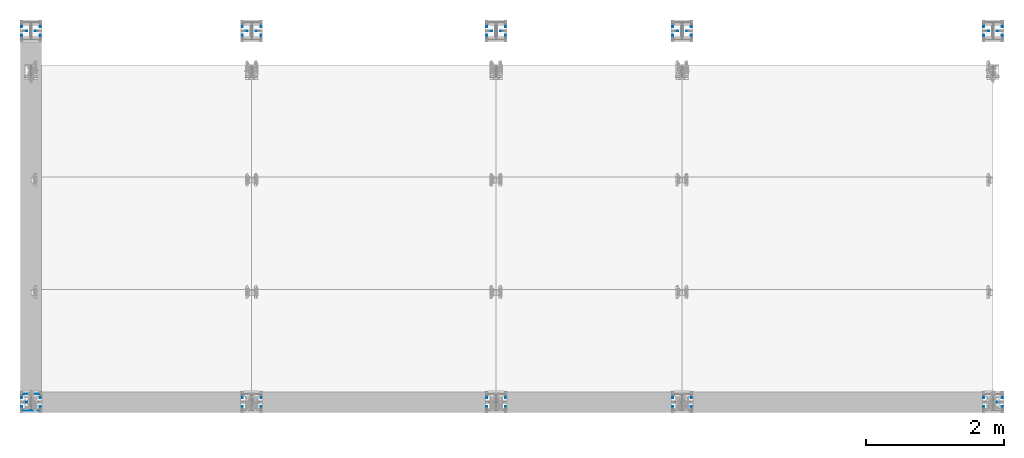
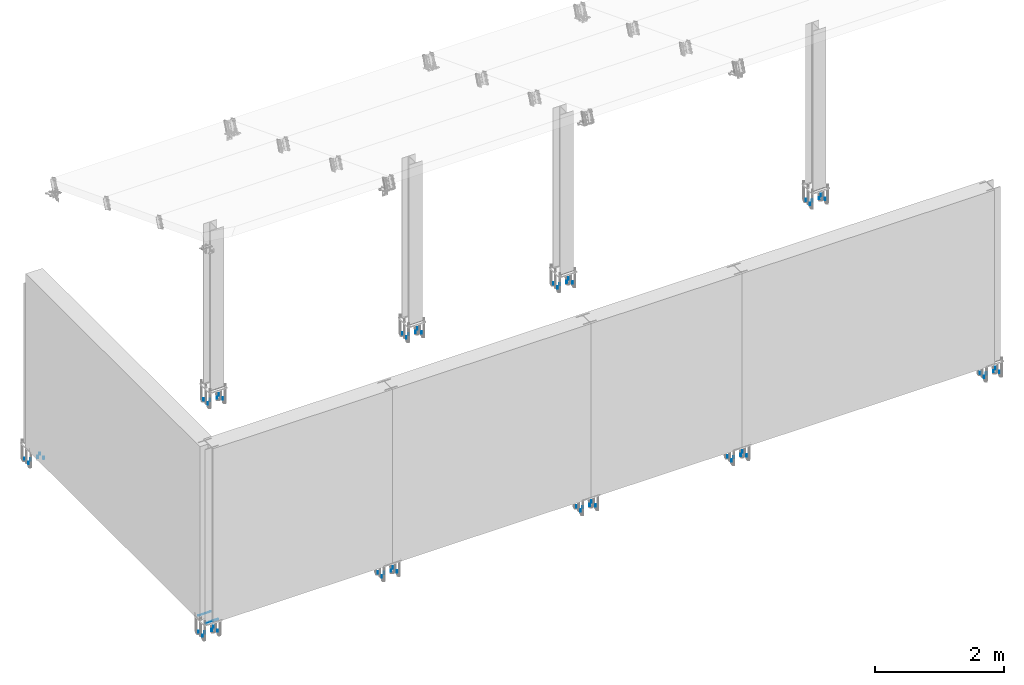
# One storey, part 9 of 72: 2 fasteners, 1 reinforcing bar.
"""IFC4 building model written with IfcOpenShell, lengths in metres."""

from ifc_helpers import new_model, entity, si_unit, frame, origin_with_axes, place, context, project, spatial, polyline, outline, extrude, source, transform, mapped, type_object, element, save


model = new_model("IFC4")

# Units and contexts
model_context = context("Model", 3, precision=1e-05, world=origin_with_axes())
ifc_project = project(units=[si_unit("LENGTHUNIT", "METRE"), si_unit("AREAUNIT", "SQUARE_METRE"), si_unit("VOLUMEUNIT", "CUBIC_METRE"), si_unit("MASSUNIT", "GRAM", prefix="KILO"), si_unit("TIMEUNIT", "SECOND"), si_unit("PLANEANGLEUNIT", "RADIAN"), si_unit("SOLIDANGLEUNIT", "STERADIAN"), si_unit("THERMODYNAMICTEMPERATUREUNIT", "DEGREE_CELSIUS")], contexts=[model_context])

# Site, building, storey
placement_1 = place(None, origin_with_axes())
site = spatial("IfcSite", under=ifc_project, at=placement_1, Name="Italia", CompositionType="ELEMENT")
building = spatial("IfcBuilding", under=site, at=placement_1, Name="Uffici", CompositionType="ELEMENT")
storey = spatial("IfcBuildingStorey", under=building, at=placement_1, Name="Storey 0", CompositionType="ELEMENT", Elevation=0.0)

# Fasteners
fastener_type_1 = type_object("IfcFastenerType", Name="Collegamenti 0001_0101 0002_0102 0003_0103 0004_0104 0005_0105 0011_0111 0012_0112 0013_0113 0014_0114 0015_0115", PredefinedType="WELD")
placement_2 = place(placement_1, origin_with_axes())
fastener_1_placement = place(placement_2, origin_with_axes())
element("IfcFastener", 1, at=fastener_1_placement, inside=storey, type_object=fastener_type_1, Name="Collegamenti 0001_0101 0002_0102 0003_0103 0004_0104 0005_0105 0011_0111 0012_0112 0013_0113 0014_0114 0015_0115", context=model_context, shape_type="SweptSolid", body=[
    extrude(outline(polyline([(0.0, 0.0), (0.00986816, 0.0101734), (0.00986816, 0.0), (0.0, 0.0)])), frame((0.11005, 0.124818, 0.01995), z_axis=(-1.0, 6.7701784e-08, 0.0), x_axis=(-6.7701784e-08, -1.0, 0.0)), (0.0, 0.0, 1.0), 0.2201),
])
fastener_type_2 = type_object("IfcFastenerType", Name="Collegamenti 0001_0101 0002_0102 0003_0103 0004_0104 0005_0105 0011_0111 0012_0112 0013_0113 0014_0114 0015_0115", PredefinedType="WELD")
fastener_2_placement = place(placement_2, origin_with_axes())
element("IfcFastener", 2, at=fastener_2_placement, inside=storey, type_object=fastener_type_2, Name="Collegamenti 0001_0101 0002_0102 0003_0103 0004_0104 0005_0105 0011_0111 0012_0112 0013_0113 0014_0114 0015_0115", context=model_context, shape_type="SweptSolid", body=[
    extrude(outline(polyline([(0.0, 0.0), (0.00986816, 0.0101734), (0.00986816, 0.0), (0.0, 0.0)])), frame((-0.11005, -0.124818, 0.01995), z_axis=(1.0, -6.7701784e-08, 0.0), x_axis=(6.7701784e-08, 1.0, 0.0)), (0.0, 0.0, 1.0), 0.2201),
])

# Reinforcing bar
shared_shape = source(origin_with_axes(), model_context, "Body", "AdvancedSweptSolid", [
    entity("IfcSweptDiskSolid", entity("IfcIndexedPolyCurve", entity("IfcCartesianPointList3D", [[-0.135, -0.063, -0.258], [-0.135, -0.063, -0.222]]), [entity("IfcLineIndex", [1, 2])], False), 0.006),
])
reinforcing_bar_placement = place(placement_2, origin_with_axes())
element("IfcReinforcingBar", 3, at=reinforcing_bar_placement, inside=storey, BarLength=0.036, CrossSectionArea=0.0001131, NominalDiameter=0.012, context=model_context, shape_type="MappedRepresentation", body=[
    mapped(shared_shape, transform((7.025, 5.39, 0.0), x_axis=(1.0, 0.0, 0.0), y_axis=(0.0, 1.0, 0.0), z_axis=(0.0, 0.0, 1.0), scale=1.0)),
    mapped(shared_shape, transform((6.755, 5.39, 0.0), x_axis=(1.0, 0.0, 0.0), y_axis=(0.0, 1.0, 0.0), z_axis=(0.0, 0.0, 1.0), scale=1.0)),
    mapped(shared_shape, transform((3.475, 5.516, 0.0), x_axis=(1.0, 0.0, 0.0), y_axis=(0.0, 1.0, 0.0), z_axis=(0.0, 0.0, 1.0), scale=1.0)),
    mapped(shared_shape, transform((3.403, 5.453, 0.0), x_axis=(1.0, 0.0, 0.0), y_axis=(0.0, 1.0, 0.0), z_axis=(0.0, 0.0, 1.0), scale=1.0)),
    mapped(shared_shape, transform((3.277, 5.453, 0.0), x_axis=(1.0, 0.0, 0.0), y_axis=(0.0, 1.0, 0.0), z_axis=(0.0, 0.0, 1.0), scale=1.0)),
    mapped(shared_shape, transform((6.827, 5.453, 0.0), x_axis=(1.0, 0.0, 0.0), y_axis=(0.0, 1.0, 0.0), z_axis=(0.0, 0.0, 1.0), scale=1.0)),
    mapped(shared_shape, transform((0.27, 5.516, 0.0), x_axis=(1.0, 0.0, 0.0), y_axis=(0.0, 1.0, 0.0), z_axis=(0.0, 0.0, 1.0), scale=1.0)),
    mapped(shared_shape, transform((0.0, 5.516, 0.0), x_axis=(1.0, 0.0, 0.0), y_axis=(0.0, 1.0, 0.0), z_axis=(0.0, 0.0, 1.0), scale=1.0)),
    mapped(shared_shape, transform((3.205, 5.516, 0.0), x_axis=(1.0, 0.0, 0.0), y_axis=(0.0, 1.0, 0.0), z_axis=(0.0, 0.0, 1.0), scale=1.0)),
    mapped(shared_shape, transform((0.27, 5.39, 0.0), x_axis=(1.0, 0.0, 0.0), y_axis=(0.0, 1.0, 0.0), z_axis=(0.0, 0.0, 1.0), scale=1.0)),
    mapped(shared_shape, transform((3.475, 5.39, 0.0), x_axis=(1.0, 0.0, 0.0), y_axis=(0.0, 1.0, 0.0), z_axis=(0.0, 0.0, 1.0), scale=1.0)),
    mapped(shared_shape, transform((3.205, 5.39, 0.0), x_axis=(1.0, 0.0, 0.0), y_axis=(0.0, 1.0, 0.0), z_axis=(0.0, 0.0, 1.0), scale=1.0)),
    mapped(shared_shape, transform((14.168, 5.453, 0.0), x_axis=(1.0, 0.0, 0.0), y_axis=(0.0, 1.0, 0.0), z_axis=(0.0, 0.0, 1.0), scale=1.0)),
    mapped(shared_shape, transform((0.198, 5.453, 0.0), x_axis=(1.0, 0.0, 0.0), y_axis=(0.0, 1.0, 0.0), z_axis=(0.0, 0.0, 1.0), scale=1.0)),
    mapped(shared_shape, transform((0.072, 5.453, 0.0), x_axis=(1.0, 0.0, 0.0), y_axis=(0.0, 1.0, 0.0), z_axis=(0.0, 0.0, 1.0), scale=1.0)),
    mapped(shared_shape, transform((0.0, 5.39, 0.0), x_axis=(1.0, 0.0, 0.0), y_axis=(0.0, 1.0, 0.0), z_axis=(0.0, 0.0, 1.0), scale=1.0)),
    mapped(shared_shape, transform((14.24, 5.516, 0.0), x_axis=(1.0, 0.0, 0.0), y_axis=(0.0, 1.0, 0.0), z_axis=(0.0, 0.0, 1.0), scale=1.0)),
    mapped(shared_shape, transform((13.97, 5.516, 0.0), x_axis=(1.0, 0.0, 0.0), y_axis=(0.0, 1.0, 0.0), z_axis=(0.0, 0.0, 1.0), scale=1.0)),
    mapped(shared_shape, transform((14.042, 5.453, 0.0), x_axis=(1.0, 0.0, 0.0), y_axis=(0.0, 1.0, 0.0), z_axis=(0.0, 0.0, 1.0), scale=1.0)),
    mapped(shared_shape, transform((14.24, 5.39, 0.0), x_axis=(1.0, 0.0, 0.0), y_axis=(0.0, 1.0, 0.0), z_axis=(0.0, 0.0, 1.0), scale=1.0)),
    mapped(shared_shape, transform((13.97, 5.39, 0.0), x_axis=(1.0, 0.0, 0.0), y_axis=(0.0, 1.0, 0.0), z_axis=(0.0, 0.0, 1.0), scale=1.0)),
    mapped(shared_shape, transform((9.455, 5.516, 0.0), x_axis=(1.0, 0.0, 0.0), y_axis=(0.0, 1.0, 0.0), z_axis=(0.0, 0.0, 1.0), scale=1.0)),
    mapped(shared_shape, transform((9.653, 5.453, 0.0), x_axis=(1.0, 0.0, 0.0), y_axis=(0.0, 1.0, 0.0), z_axis=(0.0, 0.0, 1.0), scale=1.0)),
    mapped(shared_shape, transform((9.527, 5.453, 0.0), x_axis=(1.0, 0.0, 0.0), y_axis=(0.0, 1.0, 0.0), z_axis=(0.0, 0.0, 1.0), scale=1.0)),
    mapped(shared_shape, transform((9.455, 5.39, 0.0), x_axis=(1.0, 0.0, 0.0), y_axis=(0.0, 1.0, 0.0), z_axis=(0.0, 0.0, 1.0), scale=1.0)),
    mapped(shared_shape, transform((7.025, 5.516, 0.0), x_axis=(1.0, 0.0, 0.0), y_axis=(0.0, 1.0, 0.0), z_axis=(0.0, 0.0, 1.0), scale=1.0)),
    mapped(shared_shape, transform((9.725, 5.516, 0.0), x_axis=(1.0, 0.0, 0.0), y_axis=(0.0, 1.0, 0.0), z_axis=(0.0, 0.0, 1.0), scale=1.0)),
    mapped(shared_shape, transform((6.827, 0.063, 0.0), x_axis=(1.0, 0.0, 0.0), y_axis=(0.0, 1.0, 0.0), z_axis=(0.0, 0.0, 1.0), scale=1.0)),
    mapped(shared_shape, transform((7.025, 0.0, 0.0), x_axis=(1.0, 0.0, 0.0), y_axis=(0.0, 1.0, 0.0), z_axis=(0.0, 0.0, 1.0), scale=1.0)),
    mapped(shared_shape, transform((9.725, 5.39, 0.0), x_axis=(1.0, 0.0, 0.0), y_axis=(0.0, 1.0, 0.0), z_axis=(0.0, 0.0, 1.0), scale=1.0)),
    mapped(shared_shape, transform((3.205, 0.126, 0.0), x_axis=(1.0, 0.0, 0.0), y_axis=(0.0, 1.0, 0.0), z_axis=(0.0, 0.0, 1.0), scale=1.0)),
    mapped(shared_shape, transform((6.755, 5.516, 0.0), x_axis=(1.0, 0.0, 0.0), y_axis=(0.0, 1.0, 0.0), z_axis=(0.0, 0.0, 1.0), scale=1.0)),
    mapped(shared_shape, transform((6.953, 5.453, 0.0), x_axis=(1.0, 0.0, 0.0), y_axis=(0.0, 1.0, 0.0), z_axis=(0.0, 0.0, 1.0), scale=1.0)),
    mapped(shared_shape, transform((3.205, 0.0, 0.0), x_axis=(1.0, 0.0, 0.0), y_axis=(0.0, 1.0, 0.0), z_axis=(0.0, 0.0, 1.0), scale=1.0)),
    mapped(shared_shape, transform((6.755, 0.0, 0.0), x_axis=(1.0, 0.0, 0.0), y_axis=(0.0, 1.0, 0.0), z_axis=(0.0, 0.0, 1.0), scale=1.0)),
    mapped(shared_shape, transform((3.475, 0.126, 0.0), x_axis=(1.0, 0.0, 0.0), y_axis=(0.0, 1.0, 0.0), z_axis=(0.0, 0.0, 1.0), scale=1.0)),
    mapped(shared_shape, transform((3.403, 0.063, 0.0), x_axis=(1.0, 0.0, 0.0), y_axis=(0.0, 1.0, 0.0), z_axis=(0.0, 0.0, 1.0), scale=1.0)),
    mapped(shared_shape, transform((3.277, 0.063, 0.0), x_axis=(1.0, 0.0, 0.0), y_axis=(0.0, 1.0, 0.0), z_axis=(0.0, 0.0, 1.0), scale=1.0)),
    mapped(shared_shape, transform((3.475, 0.0, 0.0), x_axis=(1.0, 0.0, 0.0), y_axis=(0.0, 1.0, 0.0), z_axis=(0.0, 0.0, 1.0), scale=1.0)),
    mapped(shared_shape, transform((0.27, 0.126, 0.0), x_axis=(1.0, 0.0, 0.0), y_axis=(0.0, 1.0, 0.0), z_axis=(0.0, 0.0, 1.0), scale=1.0)),
    mapped(shared_shape, transform((0.0, 0.126, 0.0), x_axis=(1.0, 0.0, 0.0), y_axis=(0.0, 1.0, 0.0), z_axis=(0.0, 0.0, 1.0), scale=1.0)),
    mapped(shared_shape, transform((0.198, 0.063, 0.0), x_axis=(1.0, 0.0, 0.0), y_axis=(0.0, 1.0, 0.0), z_axis=(0.0, 0.0, 1.0), scale=1.0)),
    mapped(shared_shape, transform((0.27, 0.0, 0.0), x_axis=(1.0, 0.0, 0.0), y_axis=(0.0, 1.0, 0.0), z_axis=(0.0, 0.0, 1.0), scale=1.0)),
    mapped(shared_shape, transform((0.0, 0.0, 0.0), x_axis=(1.0, 0.0, 0.0), y_axis=(0.0, 1.0, 0.0), z_axis=(0.0, 0.0, 1.0), scale=1.0)),
    mapped(shared_shape, transform((14.24, 0.126, 0.0), x_axis=(1.0, 0.0, 0.0), y_axis=(0.0, 1.0, 0.0), z_axis=(0.0, 0.0, 1.0), scale=1.0)),
    mapped(shared_shape, transform((14.168, 0.063, 0.0), x_axis=(1.0, 0.0, 0.0), y_axis=(0.0, 1.0, 0.0), z_axis=(0.0, 0.0, 1.0), scale=1.0)),
    mapped(shared_shape, transform((14.042, 0.063, 0.0), x_axis=(1.0, 0.0, 0.0), y_axis=(0.0, 1.0, 0.0), z_axis=(0.0, 0.0, 1.0), scale=1.0)),
    mapped(shared_shape, transform((0.072, 0.063, 0.0), x_axis=(1.0, 0.0, 0.0), y_axis=(0.0, 1.0, 0.0), z_axis=(0.0, 0.0, 1.0), scale=1.0)),
    mapped(shared_shape, transform((9.725, 0.126, 0.0), x_axis=(1.0, 0.0, 0.0), y_axis=(0.0, 1.0, 0.0), z_axis=(0.0, 0.0, 1.0), scale=1.0)),
    mapped(shared_shape, transform((9.455, 0.126, 0.0), x_axis=(1.0, 0.0, 0.0), y_axis=(0.0, 1.0, 0.0), z_axis=(0.0, 0.0, 1.0), scale=1.0)),
    mapped(shared_shape, transform((13.97, 0.126, 0.0), x_axis=(1.0, 0.0, 0.0), y_axis=(0.0, 1.0, 0.0), z_axis=(0.0, 0.0, 1.0), scale=1.0)),
    mapped(shared_shape, transform((9.725, 0.0, 0.0), x_axis=(1.0, 0.0, 0.0), y_axis=(0.0, 1.0, 0.0), z_axis=(0.0, 0.0, 1.0), scale=1.0)),
    mapped(shared_shape, transform((14.24, 0.0, 0.0), x_axis=(1.0, 0.0, 0.0), y_axis=(0.0, 1.0, 0.0), z_axis=(0.0, 0.0, 1.0), scale=1.0)),
    mapped(shared_shape, transform((13.97, 0.0, 0.0), x_axis=(1.0, 0.0, 0.0), y_axis=(0.0, 1.0, 0.0), z_axis=(0.0, 0.0, 1.0), scale=1.0)),
    mapped(shared_shape, transform((6.953, 0.063, 0.0), x_axis=(1.0, 0.0, 0.0), y_axis=(0.0, 1.0, 0.0), z_axis=(0.0, 0.0, 1.0), scale=1.0)),
    mapped(shared_shape, transform((9.653, 0.063, 0.0), x_axis=(1.0, 0.0, 0.0), y_axis=(0.0, 1.0, 0.0), z_axis=(0.0, 0.0, 1.0), scale=1.0)),
    mapped(shared_shape, transform((9.527, 0.063, 0.0), x_axis=(1.0, 0.0, 0.0), y_axis=(0.0, 1.0, 0.0), z_axis=(0.0, 0.0, 1.0), scale=1.0)),
    mapped(shared_shape, transform((9.455, 0.0, 0.0), x_axis=(1.0, 0.0, 0.0), y_axis=(0.0, 1.0, 0.0), z_axis=(0.0, 0.0, 1.0), scale=1.0)),
    mapped(shared_shape, transform((7.025, 0.126, 0.0), x_axis=(1.0, 0.0, 0.0), y_axis=(0.0, 1.0, 0.0), z_axis=(0.0, 0.0, 1.0), scale=1.0)),
    mapped(shared_shape, transform((6.755, 0.126, 0.0), x_axis=(1.0, 0.0, 0.0), y_axis=(0.0, 1.0, 0.0), z_axis=(0.0, 0.0, 1.0), scale=1.0)),
])

save(model, "model.ifc")
